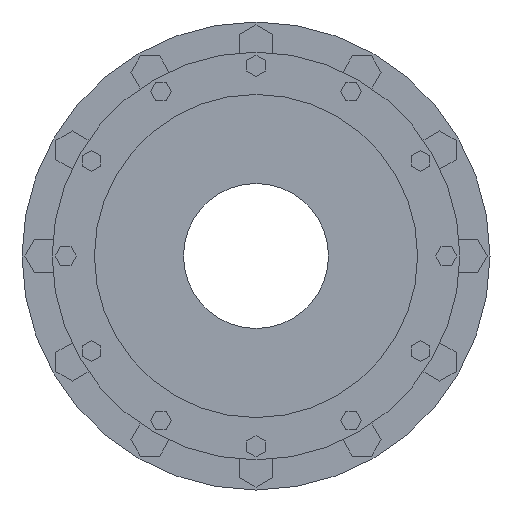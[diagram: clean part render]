
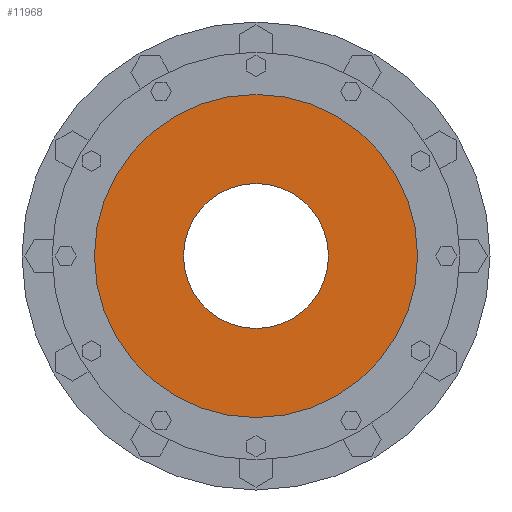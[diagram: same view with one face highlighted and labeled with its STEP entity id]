
A CAD part, left-side view. The second image highlights one B-rep face of the part: STEP entity #11968.
In plain terms, the highlighted planar face has unit normal (-1, 0, 0).
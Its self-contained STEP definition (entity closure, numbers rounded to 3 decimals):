
#11666=CARTESIAN_POINT('',(-390.,0.,0.));
#11667=DIRECTION('',(1.,0.,0.));
#11668=DIRECTION('',(0.,1.,0.));
#11669=AXIS2_PLACEMENT_3D('',#11666,#11667,#11668);
#11745=CARTESIAN_POINT('',(-390.,0.,0.));
#11746=DIRECTION('',(-1.,0.,0.));
#11747=DIRECTION('',(0.,1.,0.));
#11748=AXIS2_PLACEMENT_3D('',#11745,#11746,#11747);
#11750=CARTESIAN_POINT('',(-390.,0.,0.));
#11751=DIRECTION('',(1.,0.,0.));
#11752=DIRECTION('',(0.,1.,0.));
#11753=AXIS2_PLACEMENT_3D('',#11750,#11751,#11752);
#11764=CARTESIAN_POINT('',(-390.,0.,0.));
#11765=DIRECTION('',(-1.,0.,0.));
#11766=DIRECTION('',(0.,1.,0.));
#11767=AXIS2_PLACEMENT_3D('',#11764,#11765,#11766);
#11773=CARTESIAN_POINT('',(-390.,120.,0.));
#11774=CARTESIAN_POINT('',(-390.,-120.,0.));
#11775=VERTEX_POINT('',#11773);
#11776=VERTEX_POINT('',#11774);
#11777=CARTESIAN_POINT('',(-390.,267.5,0.));
#11778=CARTESIAN_POINT('',(-390.,-267.5,0.));
#11779=VERTEX_POINT('',#11777);
#11780=VERTEX_POINT('',#11778);
#11954=CARTESIAN_POINT('',(-390.,0.,0.));
#11955=DIRECTION('',(1.,0.,0.));
#11956=DIRECTION('',(0.,-1.,0.));
#11957=AXIS2_PLACEMENT_3D('',#11954,#11955,#11956);
#11958=PLANE('',#11957);
#11959=ORIENTED_EDGE('',*,*,#11936,.F.);
#11960=ORIENTED_EDGE('',*,*,#11949,.T.);
#11961=EDGE_LOOP('',(#11959,#11960));
#11962=FACE_OUTER_BOUND('',#11961,.F.);
#11963=ORIENTED_EDGE('',*,*,#11814,.F.);
#11965=ORIENTED_EDGE('',*,*,#11964,.T.);
#11966=EDGE_LOOP('',(#11963,#11965));
#11967=FACE_BOUND('',#11966,.F.);
#11968=ADVANCED_FACE('',(#11962,#11967),#11958,.F.);
#11670=CIRCLE('',#11669,120.);
#11749=CIRCLE('',#11748,267.5);
#11754=CIRCLE('',#11753,267.5);
#11768=CIRCLE('',#11767,120.);
#11814=EDGE_CURVE('',#11775,#11776,#11670,.T.);
#11936=EDGE_CURVE('',#11779,#11780,#11749,.T.);
#11949=EDGE_CURVE('',#11779,#11780,#11754,.T.);
#11964=EDGE_CURVE('',#11775,#11776,#11768,.T.);
